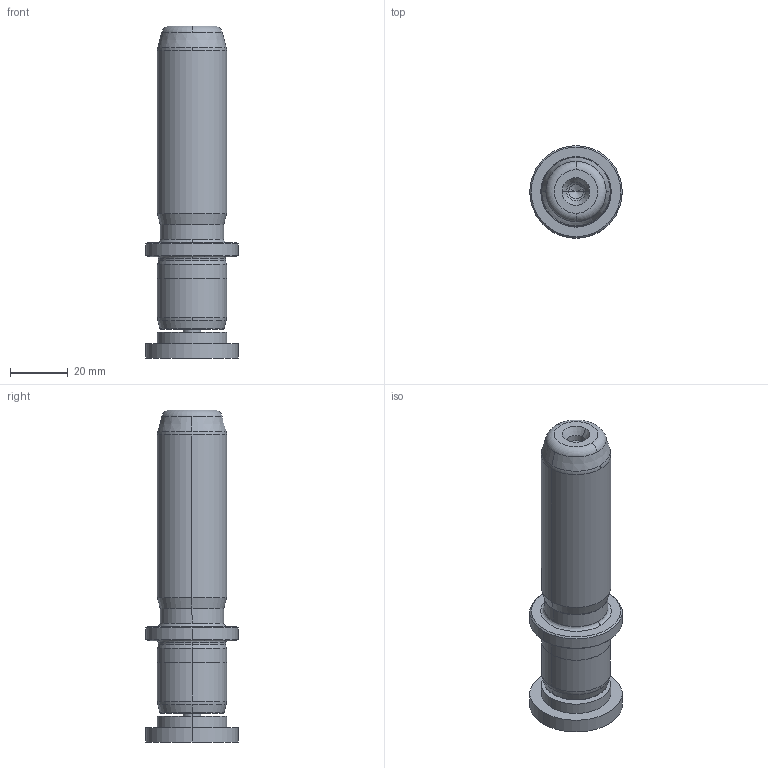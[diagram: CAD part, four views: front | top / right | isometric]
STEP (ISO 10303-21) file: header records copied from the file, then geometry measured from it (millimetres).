
FILE_DESCRIPTION((''),'2;1');
FILE_NAME('P22_024_080.stp','2009-02-02T11:07:59',(''),(''),'Mechanical Desktop 2009','Mechanical Desktop 2009',', , ');
FILE_SCHEMA(('CONFIG_CONTROL_DESIGN'));
Length unit declared in the file: millimetre
Products named in the file (2): Product; blmdl1
Assembly tree (1 placements, depth 2):
  Product
    blmdl1
Bounding box: 32 x 32 x 115 mm (x, y, z)
Volume: 52649.2 mm3; surface area: 13252.8 mm2
Topology: 3 solids, 3 shells, 99 faces, 237 edges, 149 vertices
Faces by surface type: cylinder 32, cone 28, plane 19, torus 10, bspline 10
Entity records: 3419 total; most frequent: CARTESIAN_POINT 923, DIRECTION 570, ORIENTED_EDGE 466, AXIS2_PLACEMENT_3D 246, EDGE_CURVE 233, CIRCLE 155, VERTEX_POINT 149, EDGE_LOOP 110
